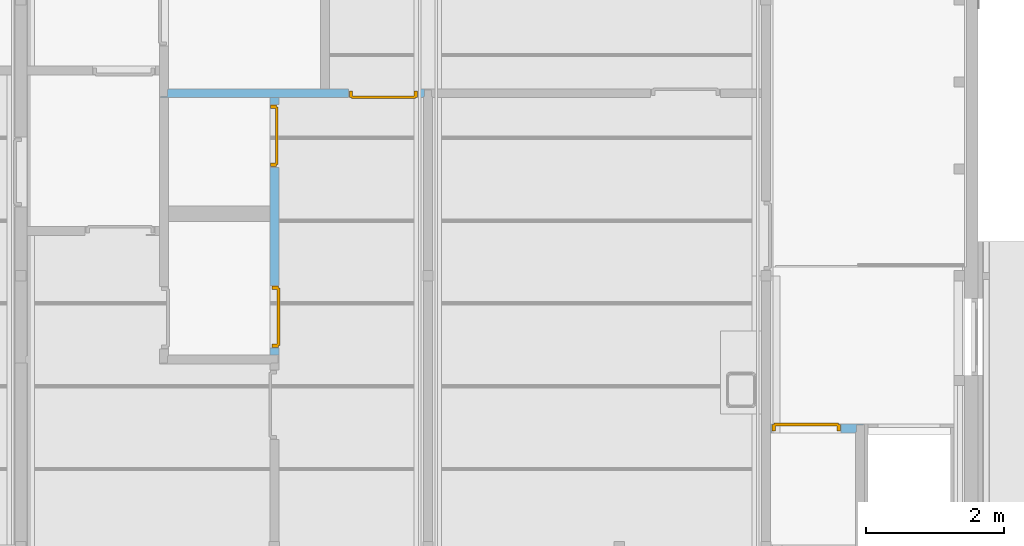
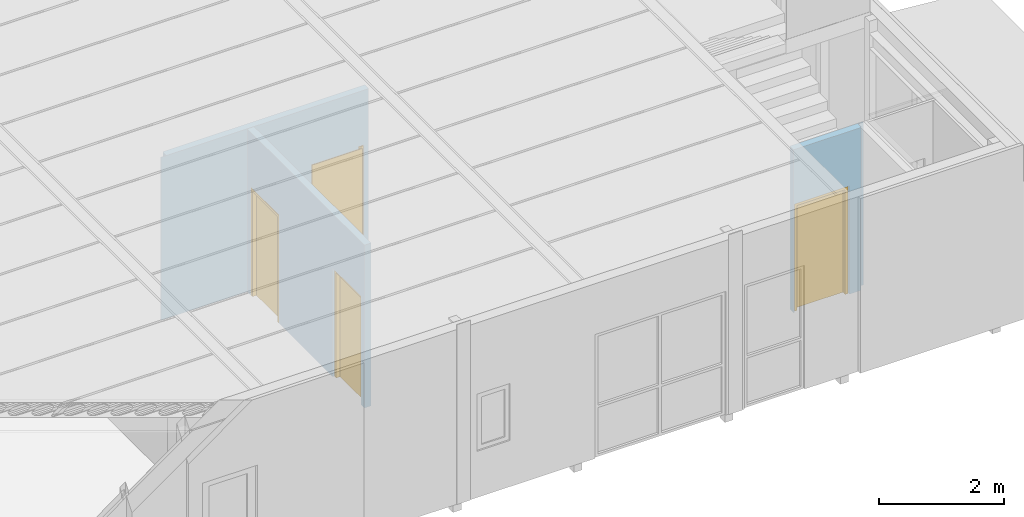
# One storey, part 28 of 45: 4 doors, 4 openings, plus 3 elements that do not belong to this part.
"""IFC2X3 building model written with IfcOpenShell, lengths in millimetres."""

from ifc_helpers import new_model, entity, si_unit, converted_unit, frame, frame_2d, origin, origin_with_axes, place, context, subcontext, project, spatial, polyline, rectangle, outline, extrude, faceted_brep, material, layer, layer_set, layer_usage, type_object, element, fill, save


model = new_model("IFC2X3")

# Units and contexts
model_context = context("Model", 3, precision=1e-05, world=origin())
plan_context = context("Plan", 3, precision=1e-05, world=origin())
body_context = subcontext(model_context, "Body", "Model", "MODEL_VIEW")
ifc_project = project(units=[si_unit("LENGTHUNIT", "METRE", prefix="MILLI"), converted_unit("PLANEANGLEUNIT", "DEGREE", entity("IfcPlaneAngleMeasure", 0.0174532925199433), si_unit("PLANEANGLEUNIT", "RADIAN"), dimensions=[0, 0, 0, 0, 0, 0, 0]), si_unit("AREAUNIT", "SQUARE_METRE"), si_unit("VOLUMEUNIT", "CUBIC_METRE")], contexts=[model_context, plan_context])

# Building, storey
building_placement = place(None, origin())
building = spatial("IfcBuilding", under=ifc_project, at=building_placement, Name="HEKF Administrasjonbygg", CompositionType="ELEMENT")
storey_placement = place(building_placement, frame((0.0, 0.0, 6500.0), z_axis=(0.0, 0.0, 1.0), x_axis=(1.0, 0.0, 0.0)))
storey = spatial("IfcBuildingStorey", under=building, at=storey_placement, Name="Plan 1", CompositionType="ELEMENT", Elevation=6500.0)

# Wall, opening, door
ifc_material_1 = material(Name="gips")
ifc_layer_1 = layer(ifc_material_1, 12.96243743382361)
ifc_material_2 = material(Name="riegel stål 100")
ifc_layer_2 = layer(ifc_material_2, 100.0)
ifc_material_3 = material(Name="gips")
ifc_layer_3 = layer(ifc_material_3, 13.47275900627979)
ifc_layer_set_1 = layer_set([ifc_layer_1, ifc_layer_2, ifc_layer_3])
ifc_layer_usage_1 = layer_usage(ifc_layer_set_1, "AXIS2", "POSITIVE", 0.0)
wall_1_placement = place(storey_placement, frame((22175.26840322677, -5291.108359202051, 0.0), z_axis=(0.0, 0.0, 1.0), x_axis=(-0.9999999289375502, 0.0003769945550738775, 0.0)))
wall_1 = element("IfcWallStandardCase", 1, at=wall_1_placement, inside=storey, material=ifc_layer_usage_1, context=body_context, shape_type="SweptSolid", body=[
    extrude(outline(polyline([(12.95253861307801, 125.8965327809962), (12.95743954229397, 112.8965337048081), (-0.04255953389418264, 112.8916327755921), (0.0, 0.0), (1475.580939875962, 0.4479268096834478), (2225.268441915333, 0.3168333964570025), (2238.268443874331, 0.3140875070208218), (3712.268667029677, 0.0), (3712.263778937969, 12.96594684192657), (3725.263780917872, 12.96314549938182), (3725.226079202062, 112.9691339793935), (3825.226092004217, 112.954025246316), (3825.220670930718, 127.3337372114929), (12.95253861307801, 125.8965327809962)])), origin_with_axes(), (0.0, 0.0, 1.0), 3170.0),
])
opening_1_placement = place(wall_1_placement, frame((89.93617140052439, 0.02730099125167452, 0.0), z_axis=(0.0, 1.0, 0.0), x_axis=(0.0, 0.0, 1.0)))
opening_1 = element("IfcOpeningElement", 2, at=opening_1_placement, cuts=wall_1, Name="garasjeport med glassfelter:45x6", ObjectType="Opening", context=body_context, shape_type="SweptSolid", body=[
    extrude(rectangle(XDim=2110.0, YDim=1010.0, at=frame_2d((1055.0, 505.0), x_axis=(1.0, 0.0))), origin_with_axes(), (0.0, 0.0, 1.0), 125.9353653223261),
])
ifc_material_4 = material()
door_style_1 = type_object("IfcDoorStyle", Name="D019", ConstructionType="NOTDEFINED", OperationType="USERDEFINED", ParameterTakesPrecedence=False, Sizeable=False)
door_1_placement = place(opening_1_placement, frame((0.0, 0.0, 0.0), z_axis=(1.0, 0.0, 0.0), x_axis=(0.0, 1.0, 0.0)))
door_1 = element("IfcDoor", 3, at=door_1_placement, inside=storey, type_object=door_style_1, material=ifc_material_4, Name="D019", OverallHeight=2110.0, OverallWidth=1010.0, context=body_context, shape_type="Brep", body=[
    faceted_brep([(9.954044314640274, 121.9020065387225, 2090.0), (9.954044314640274, 121.9020065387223, -2.816687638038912e-15), (59.9540407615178, 121.920856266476, -2.816687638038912e-15), (59.9540407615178, 121.9208562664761, 2090.0), (9.98872781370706, 29.90201307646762, 2.816687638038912e-15), (9.98872781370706, 29.90201307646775, 2090.0), (59.98872426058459, 29.92086280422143, 2090.0), (59.98872426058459, 29.9208628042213, 2.816687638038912e-15), (9.954044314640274, 121.9020065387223, -2.816687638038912e-15), (9.954044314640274, 121.9020065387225, 2090.0), (9.98872781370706, 29.90201307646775, 2090.0), (9.98872781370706, 29.90201307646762, 2.816687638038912e-15), (59.9540407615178, 121.920856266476, -2.816687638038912e-15), (9.954044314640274, 121.9020065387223, -2.816687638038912e-15), (9.98872781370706, 29.90201307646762, 2.816687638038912e-15), (59.98872426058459, 29.9208628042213, 2.816687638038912e-15), (59.9540407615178, 121.9208562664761, 2090.0), (59.9540407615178, 121.920856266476, -2.816687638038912e-15), (59.98872426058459, 29.9208628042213, 2.816687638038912e-15), (59.98872426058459, 29.92086280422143, 2090.0), (9.954044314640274, 121.9020065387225, 2090.0), (59.9540407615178, 121.9208562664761, 2090.0), (59.98872426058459, 29.92086280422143, 2090.0), (9.98872781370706, 29.90201307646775, 2090.0)], [[[0, 1, 2, 3]], [[4, 5, 6, 7]], [[8, 9, 10, 11]], [[12, 13, 14, 15]], [[16, 17, 18, 19]], [[20, 21, 22, 23]]], orient=[[False], [False], [False], [False], [False], [False]]),
    faceted_brep([(949.9539775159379, 122.2563814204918, 2090.0), (949.9539775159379, 122.2563814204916, -2.816687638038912e-15), (999.9539739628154, 122.2752311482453, -2.816687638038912e-15), (999.9539739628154, 122.2752311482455, 2090.0), (949.9886610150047, 30.25638795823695, 2.816687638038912e-15), (949.9886610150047, 30.25638795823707, 2090.0), (999.9886574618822, 30.27523768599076, 2090.0), (999.9886574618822, 30.27523768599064, 2.816687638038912e-15), (949.9539775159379, 122.2563814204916, -2.816687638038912e-15), (949.9539775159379, 122.2563814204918, 2090.0), (949.9886610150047, 30.25638795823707, 2090.0), (949.9886610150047, 30.25638795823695, 2.816687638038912e-15), (999.9539739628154, 122.2752311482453, -2.816687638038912e-15), (949.9539775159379, 122.2563814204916, -2.816687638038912e-15), (949.9886610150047, 30.25638795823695, 2.816687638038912e-15), (999.9886574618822, 30.27523768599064, 2.816687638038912e-15), (999.9539739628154, 122.2752311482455, 2090.0), (999.9539739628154, 122.2752311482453, -2.816687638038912e-15), (999.9886574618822, 30.27523768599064, 2.816687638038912e-15), (999.9886574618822, 30.27523768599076, 2090.0), (949.9539775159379, 122.2563814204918, 2090.0), (999.9539739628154, 122.2752311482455, 2090.0), (999.9886574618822, 30.27523768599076, 2090.0), (949.9886610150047, 30.25638795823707, 2090.0)], [[[0, 1, 2, 3]], [[4, 5, 6, 7]], [[8, 9, 10, 11]], [[12, 13, 14, 15]], [[16, 17, 18, 19]], [[20, 21, 22, 23]]], orient=[[False], [False], [False], [False], [False], [False]]),
    faceted_brep([(59.9540407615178, 121.9208562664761, 2090.0), (59.9540407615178, 121.9208562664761, 2040.0), (949.9539775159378, 122.2563814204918, 2040.0), (949.9539775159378, 122.2563814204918, 2090.0), (59.98872426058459, 29.92086280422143, 2040.0), (59.98872426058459, 29.92086280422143, 2090.0), (949.9886610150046, 30.25638795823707, 2090.0), (949.9886610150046, 30.25638795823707, 2040.0), (59.9540407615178, 121.9208562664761, 2040.0), (59.9540407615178, 121.9208562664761, 2090.0), (59.98872426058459, 29.92086280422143, 2090.0), (59.98872426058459, 29.92086280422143, 2040.0), (949.9539775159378, 122.2563814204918, 2040.0), (59.9540407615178, 121.9208562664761, 2040.0), (59.98872426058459, 29.92086280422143, 2040.0), (949.9886610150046, 30.25638795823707, 2040.0), (949.9539775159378, 122.2563814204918, 2090.0), (949.9539775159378, 122.2563814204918, 2040.0), (949.9886610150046, 30.25638795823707, 2040.0), (949.9886610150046, 30.25638795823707, 2090.0), (59.9540407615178, 121.9208562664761, 2090.0), (949.9539775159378, 122.2563814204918, 2090.0), (949.9886610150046, 30.25638795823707, 2090.0), (59.98872426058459, 29.92086280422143, 2090.0)], [[[0, 1, 2, 3]], [[4, 5, 6, 7]], [[8, 9, 10, 11]], [[12, 13, 14, 15]], [[16, 17, 18, 19]], [[20, 21, 22, 23]]], orient=[[False], [False], [False], [False], [False], [False]]),
    faceted_brep([(39.94650229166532, 141.9133149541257, 2060.0), (39.94650229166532, 141.9133149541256, -4.041334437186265e-15), (969.9464362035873, 142.2639198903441, -4.041334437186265e-15), (969.9464362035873, 142.2639198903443, 2060.0), (39.96158207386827, 101.9133177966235, -1.592040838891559e-15), (39.96158207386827, 101.9133177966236, 2060.0), (969.9615159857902, 102.2639227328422, 2060.0), (969.9615159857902, 102.2639227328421, -1.592040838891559e-15), (39.94650229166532, 141.9133149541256, -4.041334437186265e-15), (39.94650229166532, 141.9133149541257, 2060.0), (39.96158207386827, 101.9133177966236, 2060.0), (39.96158207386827, 101.9133177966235, -1.592040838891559e-15), (969.9464362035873, 142.2639198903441, -4.041334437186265e-15), (39.94650229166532, 141.9133149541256, -4.041334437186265e-15), (39.96158207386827, 101.9133177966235, -1.592040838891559e-15), (969.9615159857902, 102.2639227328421, -1.592040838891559e-15), (969.9464362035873, 142.2639198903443, 2060.0), (969.9464362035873, 142.2639198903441, -4.041334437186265e-15), (969.9615159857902, 102.2639227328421, -1.592040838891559e-15), (969.9615159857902, 102.2639227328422, 2060.0), (39.94650229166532, 141.9133149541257, 2060.0), (969.9464362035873, 142.2639198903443, 2060.0), (969.9615159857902, 102.2639227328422, 2060.0), (39.96158207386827, 101.9133177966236, 2060.0)], [[[0, 1, 2, 3]], [[4, 5, 6, 7]], [[8, 9, 10, 11]], [[12, 13, 14, 15]], [[16, 17, 18, 19]], [[20, 21, 22, 23]]], orient=[[False], [False], [False], [False], [False], [False]]),
])
fill(opening_1, door_1)

# Wall, openings, doors
ifc_material_5 = material(Name="gips")
ifc_layer_4 = layer(ifc_material_5, 13.0)
ifc_material_6 = material(Name="riegel stål 100")
ifc_layer_5 = layer(ifc_material_6, 100.0)
ifc_material_7 = material(Name="gips")
ifc_layer_6 = layer(ifc_material_7, 13.0)
ifc_layer_set_2 = layer_set([ifc_layer_4, ifc_layer_5, ifc_layer_6])
ifc_layer_usage_2 = layer_usage(ifc_layer_set_2, "AXIS2", "POSITIVE", -13.0)
wall_2_placement = place(storey_placement, frame((20063.0, -9150.00000000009, 0.0), z_axis=(0.0, 0.0, 1.0), x_axis=(0.0, 1.0, 0.0)))
wall_2 = element("IfcWallStandardCase", 4, at=wall_2_placement, inside=storey, material=ifc_layer_usage_2, context=body_context, shape_type="SweptSolid", body=[
    extrude(rectangle(XDim=3733.000000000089, YDim=126.0, at=frame_2d((1866.500000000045, 63.0), x_axis=(1.0, 0.0))), origin_with_axes(), (0.0, 0.0, 1.0), 3170.0),
])
opening_2_placement = place(wall_2_placement, frame((100.0, 0.0, 0.0), z_axis=(0.0, 1.0, 0.0), x_axis=(0.0, 0.0, 1.0)))
opening_2 = element("IfcOpeningElement", 5, at=opening_2_placement, cuts=wall_2, Name="D017", ObjectType="Opening", context=body_context, shape_type="SweptSolid", body=[
    extrude(rectangle(XDim=2110.0, YDim=910.0, at=frame_2d((1055.0, 455.0), x_axis=(1.0, 0.0))), origin_with_axes(), (0.0, 0.0, 1.0), 126.0),
])
opening_3_placement = place(wall_2_placement, frame((2723.193418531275, 0.0, 0.0), z_axis=(0.0, 1.0, 0.0), x_axis=(0.0, 0.0, 1.0)))
opening_3 = element("IfcOpeningElement", 6, at=opening_3_placement, cuts=wall_2, Name="garasjeport med glassfelter:45x6", ObjectType="Opening", context=body_context, shape_type="SweptSolid", body=[
    extrude(rectangle(XDim=2110.0, YDim=910.0, at=frame_2d((1055.0, 455.0), x_axis=(1.0, 0.0))), origin_with_axes(), (0.0, 0.0, 1.0), 126.0),
])
ifc_material_8 = material()
door_style_2 = type_object("IfcDoorStyle", Name="D017", ConstructionType="NOTDEFINED", OperationType="USERDEFINED", ParameterTakesPrecedence=False, Sizeable=False)
door_2_placement = place(opening_2_placement, frame((0.0, 0.0, 0.0), z_axis=(1.0, 0.0, 0.0), x_axis=(0.0, 1.0, 0.0)))
door_2 = element("IfcDoor", 7, at=door_2_placement, inside=storey, type_object=door_style_2, material=ifc_material_8, Name="D017", OverallHeight=2110.0, OverallWidth=910.0, context=body_context, shape_type="Brep", body=[
    faceted_brep([(9.999999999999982, 3.999999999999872, 2090.0), (59.99999999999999, 3.999999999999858, 2090.0), (59.99999999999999, 3.999999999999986, -2.816687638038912e-15), (9.999999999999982, 4.0, -2.816687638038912e-15), (10.0, 96.0, 2.816687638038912e-15), (60.0, 95.99999999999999, 2.816687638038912e-15), (60.0, 95.99999999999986, 2090.0), (10.0, 95.99999999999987, 2090.0), (9.999999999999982, 4.0, -2.816687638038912e-15), (10.0, 96.0, 2.816687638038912e-15), (10.0, 95.99999999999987, 2090.0), (9.999999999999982, 3.999999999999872, 2090.0), (59.99999999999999, 3.999999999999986, -2.816687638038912e-15), (60.0, 95.99999999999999, 2.816687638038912e-15), (10.0, 96.0, 2.816687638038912e-15), (9.999999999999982, 4.0, -2.816687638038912e-15), (59.99999999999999, 3.999999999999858, 2090.0), (60.0, 95.99999999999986, 2090.0), (60.0, 95.99999999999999, 2.816687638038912e-15), (59.99999999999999, 3.999999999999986, -2.816687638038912e-15), (9.999999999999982, 3.999999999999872, 2090.0), (10.0, 95.99999999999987, 2090.0), (60.0, 95.99999999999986, 2090.0), (59.99999999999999, 3.999999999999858, 2090.0)], [[[0, 1, 2, 3]], [[4, 5, 6, 7]], [[8, 9, 10, 11]], [[12, 13, 14, 15]], [[16, 17, 18, 19]], [[20, 21, 22, 23]]], orient=[[False], [False], [False], [False], [False], [False]]),
    faceted_brep([(850.0, 3.999999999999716, 2090.0), (900.0, 3.999999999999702, 2090.0), (900.0, 3.99999999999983, -2.816687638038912e-15), (850.0, 3.999999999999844, -2.816687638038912e-15), (850.0, 95.99999999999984, 2.816687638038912e-15), (900.0, 95.99999999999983, 2.816687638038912e-15), (900.0, 95.9999999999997, 2090.0), (850.0, 95.99999999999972, 2090.0), (850.0, 3.999999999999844, -2.816687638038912e-15), (850.0, 95.99999999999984, 2.816687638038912e-15), (850.0, 95.99999999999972, 2090.0), (850.0, 3.999999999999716, 2090.0), (900.0, 3.99999999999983, -2.816687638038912e-15), (900.0, 95.99999999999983, 2.816687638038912e-15), (850.0, 95.99999999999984, 2.816687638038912e-15), (850.0, 3.999999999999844, -2.816687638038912e-15), (900.0, 3.999999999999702, 2090.0), (900.0, 95.9999999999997, 2090.0), (900.0, 95.99999999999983, 2.816687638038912e-15), (900.0, 3.99999999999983, -2.816687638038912e-15), (850.0, 3.999999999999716, 2090.0), (850.0, 95.99999999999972, 2090.0), (900.0, 95.9999999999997, 2090.0), (900.0, 3.999999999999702, 2090.0)], [[[0, 1, 2, 3]], [[4, 5, 6, 7]], [[8, 9, 10, 11]], [[12, 13, 14, 15]], [[16, 17, 18, 19]], [[20, 21, 22, 23]]], orient=[[False], [False], [False], [False], [False], [False]]),
    faceted_brep([(59.99999999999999, 3.999999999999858, 2090.0), (849.9999999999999, 3.999999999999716, 2090.0), (849.9999999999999, 3.999999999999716, 2040.0), (59.99999999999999, 3.999999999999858, 2040.0), (60.0, 95.99999999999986, 2040.0), (849.9999999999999, 95.99999999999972, 2040.0), (849.9999999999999, 95.99999999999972, 2090.0), (60.0, 95.99999999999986, 2090.0), (59.99999999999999, 3.999999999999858, 2040.0), (60.0, 95.99999999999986, 2040.0), (60.0, 95.99999999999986, 2090.0), (59.99999999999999, 3.999999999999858, 2090.0), (849.9999999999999, 3.999999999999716, 2040.0), (849.9999999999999, 95.99999999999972, 2040.0), (60.0, 95.99999999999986, 2040.0), (59.99999999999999, 3.999999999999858, 2040.0), (849.9999999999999, 3.999999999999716, 2090.0), (849.9999999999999, 95.99999999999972, 2090.0), (849.9999999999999, 95.99999999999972, 2040.0), (849.9999999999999, 3.999999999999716, 2040.0), (59.99999999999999, 3.999999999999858, 2090.0), (60.0, 95.99999999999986, 2090.0), (849.9999999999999, 95.99999999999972, 2090.0), (849.9999999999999, 3.999999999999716, 2090.0)], [[[0, 1, 2, 3]], [[4, 5, 6, 7]], [[8, 9, 10, 11]], [[12, 13, 14, 15]], [[16, 17, 18, 19]], [[20, 21, 22, 23]]], orient=[[False], [False], [False], [False], [False], [False]]),
    faceted_brep([(39.99999999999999, -16.00000000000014, 2060.0), (870.0, -16.00000000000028, 2060.0), (870.0, -16.00000000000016, -4.041334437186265e-15), (39.99999999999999, -16.00000000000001, -4.041334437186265e-15), (39.99999999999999, 23.99999999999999, -1.592040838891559e-15), (870.0, 23.99999999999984, -1.592040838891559e-15), (870.0, 23.99999999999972, 2060.0), (39.99999999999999, 23.99999999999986, 2060.0), (39.99999999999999, -16.00000000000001, -4.041334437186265e-15), (39.99999999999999, 23.99999999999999, -1.592040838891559e-15), (39.99999999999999, 23.99999999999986, 2060.0), (39.99999999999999, -16.00000000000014, 2060.0), (870.0, -16.00000000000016, -4.041334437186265e-15), (870.0, 23.99999999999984, -1.592040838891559e-15), (39.99999999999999, 23.99999999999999, -1.592040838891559e-15), (39.99999999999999, -16.00000000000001, -4.041334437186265e-15), (870.0, -16.00000000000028, 2060.0), (870.0, 23.99999999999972, 2060.0), (870.0, 23.99999999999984, -1.592040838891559e-15), (870.0, -16.00000000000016, -4.041334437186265e-15), (39.99999999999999, -16.00000000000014, 2060.0), (39.99999999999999, 23.99999999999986, 2060.0), (870.0, 23.99999999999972, 2060.0), (870.0, -16.00000000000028, 2060.0)], [[[0, 1, 2, 3]], [[4, 5, 6, 7]], [[8, 9, 10, 11]], [[12, 13, 14, 15]], [[16, 17, 18, 19]], [[20, 21, 22, 23]]], orient=[[False], [False], [False], [False], [False], [False]]),
])
fill(opening_2, door_2)
ifc_material_9 = material()
door_style_3 = type_object("IfcDoorStyle", Name="D018", ConstructionType="NOTDEFINED", OperationType="USERDEFINED", ParameterTakesPrecedence=False, Sizeable=False)
door_3_placement = place(opening_3_placement, frame((0.0, 0.0, 0.0), z_axis=(1.0, 0.0, 0.0), x_axis=(0.0, 1.0, 0.0)))
door_3 = element("IfcDoor", 8, at=door_3_placement, inside=storey, type_object=door_style_3, material=ifc_material_9, Name="D018", OverallHeight=2110.0, OverallWidth=910.0, context=body_context, shape_type="Brep", body=[
    faceted_brep([(900.0, 29.99999999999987, 2090.0), (900.0, 30.0, -2.816687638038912e-15), (850.0, 30.0, -2.816687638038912e-15), (850.0, 29.99999999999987, 2090.0), (900.0, 122.0, 2.816687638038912e-15), (900.0, 121.9999999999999, 2090.0), (850.0, 121.9999999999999, 2090.0), (850.0, 122.0, 2.816687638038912e-15), (900.0, 30.0, -2.816687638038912e-15), (900.0, 29.99999999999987, 2090.0), (900.0, 121.9999999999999, 2090.0), (900.0, 122.0, 2.816687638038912e-15), (850.0, 30.0, -2.816687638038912e-15), (900.0, 30.0, -2.816687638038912e-15), (900.0, 122.0, 2.816687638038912e-15), (850.0, 122.0, 2.816687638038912e-15), (850.0, 29.99999999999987, 2090.0), (850.0, 30.0, -2.816687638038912e-15), (850.0, 122.0, 2.816687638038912e-15), (850.0, 121.9999999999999, 2090.0), (900.0, 29.99999999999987, 2090.0), (850.0, 29.99999999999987, 2090.0), (850.0, 121.9999999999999, 2090.0), (900.0, 121.9999999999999, 2090.0)], [[[0, 1, 2, 3]], [[4, 5, 6, 7]], [[8, 9, 10, 11]], [[12, 13, 14, 15]], [[16, 17, 18, 19]], [[20, 21, 22, 23]]], orient=[[False], [False], [False], [False], [False], [False]]),
    faceted_brep([(60.0, 29.99999999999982, 2090.0), (60.0, 29.99999999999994, -2.816687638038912e-15), (10.0, 29.99999999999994, -2.816687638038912e-15), (10.0, 29.99999999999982, 2090.0), (60.0, 121.9999999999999, 2.816687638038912e-15), (60.0, 121.9999999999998, 2090.0), (10.0, 121.9999999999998, 2090.0), (10.0, 121.9999999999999, 2.816687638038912e-15), (60.0, 29.99999999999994, -2.816687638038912e-15), (60.0, 29.99999999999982, 2090.0), (60.0, 121.9999999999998, 2090.0), (60.0, 121.9999999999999, 2.816687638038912e-15), (10.0, 29.99999999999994, -2.816687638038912e-15), (60.0, 29.99999999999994, -2.816687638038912e-15), (60.0, 121.9999999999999, 2.816687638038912e-15), (10.0, 121.9999999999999, 2.816687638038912e-15), (10.0, 29.99999999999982, 2090.0), (10.0, 29.99999999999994, -2.816687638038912e-15), (10.0, 121.9999999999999, 2.816687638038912e-15), (10.0, 121.9999999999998, 2090.0), (60.0, 29.99999999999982, 2090.0), (10.0, 29.99999999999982, 2090.0), (10.0, 121.9999999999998, 2090.0), (60.0, 121.9999999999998, 2090.0)], [[[0, 1, 2, 3]], [[4, 5, 6, 7]], [[8, 9, 10, 11]], [[12, 13, 14, 15]], [[16, 17, 18, 19]], [[20, 21, 22, 23]]], orient=[[False], [False], [False], [False], [False], [False]]),
    faceted_brep([(850.0, 29.99999999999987, 2090.0), (850.0, 29.99999999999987, 2040.0), (60.00000000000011, 29.99999999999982, 2040.0), (60.00000000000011, 29.99999999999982, 2090.0), (850.0, 121.9999999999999, 2040.0), (850.0, 121.9999999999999, 2090.0), (60.00000000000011, 121.9999999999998, 2090.0), (60.00000000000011, 121.9999999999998, 2040.0), (850.0, 29.99999999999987, 2040.0), (850.0, 29.99999999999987, 2090.0), (850.0, 121.9999999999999, 2090.0), (850.0, 121.9999999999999, 2040.0), (60.00000000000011, 29.99999999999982, 2040.0), (850.0, 29.99999999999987, 2040.0), (850.0, 121.9999999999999, 2040.0), (60.00000000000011, 121.9999999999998, 2040.0), (60.00000000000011, 29.99999999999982, 2090.0), (60.00000000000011, 29.99999999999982, 2040.0), (60.00000000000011, 121.9999999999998, 2040.0), (60.00000000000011, 121.9999999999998, 2090.0), (850.0, 29.99999999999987, 2090.0), (60.00000000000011, 29.99999999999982, 2090.0), (60.00000000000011, 121.9999999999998, 2090.0), (850.0, 121.9999999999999, 2090.0)], [[[0, 1, 2, 3]], [[4, 5, 6, 7]], [[8, 9, 10, 11]], [[12, 13, 14, 15]], [[16, 17, 18, 19]], [[20, 21, 22, 23]]], orient=[[False], [False], [False], [False], [False], [False]]),
    faceted_brep([(870.0, 9.999999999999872, 2060.0), (870.0, 10.0, -4.041334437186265e-15), (40.0, 9.999999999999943, -4.041334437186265e-15), (40.0, 9.999999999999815, 2060.0), (870.0, 50.0, -1.592040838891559e-15), (870.0, 49.99999999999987, 2060.0), (40.0, 49.99999999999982, 2060.0), (40.0, 49.99999999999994, -1.592040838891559e-15), (870.0, 10.0, -4.041334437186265e-15), (870.0, 9.999999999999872, 2060.0), (870.0, 49.99999999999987, 2060.0), (870.0, 50.0, -1.592040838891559e-15), (40.0, 9.999999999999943, -4.041334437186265e-15), (870.0, 10.0, -4.041334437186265e-15), (870.0, 50.0, -1.592040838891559e-15), (40.0, 49.99999999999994, -1.592040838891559e-15), (40.0, 9.999999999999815, 2060.0), (40.0, 9.999999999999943, -4.041334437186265e-15), (40.0, 49.99999999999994, -1.592040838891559e-15), (40.0, 49.99999999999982, 2060.0), (870.0, 9.999999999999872, 2060.0), (40.0, 9.999999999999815, 2060.0), (40.0, 49.99999999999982, 2060.0), (870.0, 49.99999999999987, 2060.0)], [[[0, 1, 2, 3]], [[4, 5, 6, 7]], [[8, 9, 10, 11]], [[12, 13, 14, 15]], [[16, 17, 18, 19]], [[20, 21, 22, 23]]], orient=[[False], [False], [False], [False], [False], [False]]),
])
fill(opening_3, door_3)

# Wall, opening, door
ifc_material_10 = material(Name="gips")
ifc_layer_7 = layer(ifc_material_10, 13.0)
ifc_material_11 = material(Name="riegel stål 100")
ifc_layer_8 = layer(ifc_material_11, 100.0)
ifc_material_12 = material(Name="gips")
ifc_layer_9 = layer(ifc_material_12, 13.0)
ifc_layer_set_3 = layer_set([ifc_layer_7, ifc_layer_8, ifc_layer_9])
ifc_layer_usage_3 = layer_usage(ifc_layer_set_3, "AXIS2", "POSITIVE", 0.0)
wall_3_placement = place(storey_placement, frame((28537.0, -10150.0, 0.0), z_axis=(0.0, 0.0, 1.0), x_axis=(-1.0, 0.0, 0.0)))
wall_3 = element("IfcWallStandardCase", 9, at=wall_3_placement, inside=storey, material=ifc_layer_usage_3, context=body_context, shape_type="SweptSolid", body=[
    extrude(outline(polyline([(113.0, 126.0), (113.0, 113.0), (100.0, 113.0), (100.0, 13.0), (0.0, 13.0), (0.0, 0.0), (1348.463193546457, 0.0), (1348.463193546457, 126.0), (113.0, 126.0)])), origin_with_axes(), (0.0, 0.0, 1.0), 3170.0),
])
opening_4_placement = place(wall_3_placement, frame((323.4631935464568, 0.0, 0.0), z_axis=(0.0, 1.0, 0.0), x_axis=(0.0, 0.0, 1.0)))
opening_4 = element("IfcOpeningElement", 10, at=opening_4_placement, cuts=wall_3, Name="D030", ObjectType="Opening", context=body_context, shape_type="SweptSolid", body=[
    extrude(rectangle(XDim=2110.0, YDim=1010.0, at=frame_2d((1055.0, 505.0), x_axis=(1.0, 0.0))), origin_with_axes(), (0.0, 0.0, 1.0), 126.0),
])
ifc_material_13 = material()
door_style_4 = type_object("IfcDoorStyle", Name="D030", ConstructionType="NOTDEFINED", OperationType="USERDEFINED", ParameterTakesPrecedence=False, Sizeable=False)
door_4_placement = place(opening_4_placement, frame((0.0, 0.0, 0.0), z_axis=(1.0, 0.0, 0.0), x_axis=(0.0, 1.0, 0.0)))
door_4 = element("IfcDoor", 11, at=door_4_placement, inside=storey, type_object=door_style_4, material=ifc_material_13, Name="D030", OverallHeight=2110.0, OverallWidth=1010.0, context=body_context, shape_type="Brep", body=[
    faceted_brep([(1000.0, 3.999999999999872, 2090.0), (1000.0, 4.0, -2.816687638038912e-15), (950.0, 4.000000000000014, -2.816687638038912e-15), (950.0, 3.999999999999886, 2090.0), (1000.0, 96.0, 2.816687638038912e-15), (1000.0, 95.99999999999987, 2090.0), (950.0, 95.99999999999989, 2090.0), (950.0, 96.00000000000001, 2.816687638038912e-15), (1000.0, 4.0, -2.816687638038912e-15), (1000.0, 3.999999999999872, 2090.0), (1000.0, 95.99999999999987, 2090.0), (1000.0, 96.0, 2.816687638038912e-15), (950.0, 4.000000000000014, -2.816687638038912e-15), (1000.0, 4.0, -2.816687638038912e-15), (1000.0, 96.0, 2.816687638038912e-15), (950.0, 96.00000000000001, 2.816687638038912e-15), (950.0, 3.999999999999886, 2090.0), (950.0, 4.000000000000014, -2.816687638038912e-15), (950.0, 96.00000000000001, 2.816687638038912e-15), (950.0, 95.99999999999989, 2090.0), (1000.0, 3.999999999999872, 2090.0), (950.0, 3.999999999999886, 2090.0), (950.0, 95.99999999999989, 2090.0), (1000.0, 95.99999999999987, 2090.0)], [[[0, 1, 2, 3]], [[4, 5, 6, 7]], [[8, 9, 10, 11]], [[12, 13, 14, 15]], [[16, 17, 18, 19]], [[20, 21, 22, 23]]], orient=[[False], [False], [False], [False], [False], [False]]),
    faceted_brep([(60.0, 4.0000000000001, 2090.0), (60.0, 4.000000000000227, -2.816687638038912e-15), (10.0, 4.000000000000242, -2.816687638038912e-15), (10.0, 4.000000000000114, 2090.0), (60.0, 96.00000000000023, 2.816687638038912e-15), (60.0, 96.0000000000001, 2090.0), (10.0, 96.00000000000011, 2090.0), (10.0, 96.00000000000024, 2.816687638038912e-15), (60.0, 4.000000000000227, -2.816687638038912e-15), (60.0, 4.0000000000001, 2090.0), (60.0, 96.0000000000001, 2090.0), (60.0, 96.00000000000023, 2.816687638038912e-15), (10.0, 4.000000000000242, -2.816687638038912e-15), (60.0, 4.000000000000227, -2.816687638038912e-15), (60.0, 96.00000000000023, 2.816687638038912e-15), (10.0, 96.00000000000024, 2.816687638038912e-15), (10.0, 4.000000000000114, 2090.0), (10.0, 4.000000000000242, -2.816687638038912e-15), (10.0, 96.00000000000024, 2.816687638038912e-15), (10.0, 96.00000000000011, 2090.0), (60.0, 4.0000000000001, 2090.0), (10.0, 4.000000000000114, 2090.0), (10.0, 96.00000000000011, 2090.0), (60.0, 96.0000000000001, 2090.0)], [[[0, 1, 2, 3]], [[4, 5, 6, 7]], [[8, 9, 10, 11]], [[12, 13, 14, 15]], [[16, 17, 18, 19]], [[20, 21, 22, 23]]], orient=[[False], [False], [False], [False], [False], [False]]),
    faceted_brep([(950.0, 3.999999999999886, 2090.0), (950.0, 3.999999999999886, 2040.0), (60.00000000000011, 4.0000000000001, 2040.0), (60.00000000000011, 4.0000000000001, 2090.0), (950.0, 95.99999999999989, 2040.0), (950.0, 95.99999999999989, 2090.0), (60.00000000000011, 96.0000000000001, 2090.0), (60.00000000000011, 96.0000000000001, 2040.0), (950.0, 3.999999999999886, 2040.0), (950.0, 3.999999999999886, 2090.0), (950.0, 95.99999999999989, 2090.0), (950.0, 95.99999999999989, 2040.0), (60.00000000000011, 4.0000000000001, 2040.0), (950.0, 3.999999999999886, 2040.0), (950.0, 95.99999999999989, 2040.0), (60.00000000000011, 96.0000000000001, 2040.0), (60.00000000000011, 4.0000000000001, 2090.0), (60.00000000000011, 4.0000000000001, 2040.0), (60.00000000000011, 96.0000000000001, 2040.0), (60.00000000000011, 96.0000000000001, 2090.0), (950.0, 3.999999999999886, 2090.0), (60.00000000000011, 4.0000000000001, 2090.0), (60.00000000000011, 96.0000000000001, 2090.0), (950.0, 95.99999999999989, 2090.0)], [[[0, 1, 2, 3]], [[4, 5, 6, 7]], [[8, 9, 10, 11]], [[12, 13, 14, 15]], [[16, 17, 18, 19]], [[20, 21, 22, 23]]], orient=[[False], [False], [False], [False], [False], [False]]),
    faceted_brep([(970.0, -16.00000000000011, 2060.0), (970.0, -15.99999999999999, -4.041334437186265e-15), (40.00000000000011, -15.99999999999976, -4.041334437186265e-15), (40.00000000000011, -15.99999999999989, 2060.0), (970.0, 24.00000000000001, -1.592040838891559e-15), (970.0, 23.99999999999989, 2060.0), (40.00000000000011, 24.00000000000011, 2060.0), (40.00000000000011, 24.00000000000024, -1.592040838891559e-15), (970.0, -15.99999999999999, -4.041334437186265e-15), (970.0, -16.00000000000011, 2060.0), (970.0, 23.99999999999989, 2060.0), (970.0, 24.00000000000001, -1.592040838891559e-15), (40.00000000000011, -15.99999999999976, -4.041334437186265e-15), (970.0, -15.99999999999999, -4.041334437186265e-15), (970.0, 24.00000000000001, -1.592040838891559e-15), (40.00000000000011, 24.00000000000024, -1.592040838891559e-15), (40.00000000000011, -15.99999999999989, 2060.0), (40.00000000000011, -15.99999999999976, -4.041334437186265e-15), (40.00000000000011, 24.00000000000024, -1.592040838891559e-15), (40.00000000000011, 24.00000000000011, 2060.0), (970.0, -16.00000000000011, 2060.0), (40.00000000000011, -15.99999999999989, 2060.0), (40.00000000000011, 24.00000000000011, 2060.0), (970.0, 23.99999999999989, 2060.0)], [[[0, 1, 2, 3]], [[4, 5, 6, 7]], [[8, 9, 10, 11]], [[12, 13, 14, 15]], [[16, 17, 18, 19]], [[20, 21, 22, 23]]], orient=[[False], [False], [False], [False], [False], [False]]),
])
fill(opening_4, door_4)

save(model, "model.ifc")
